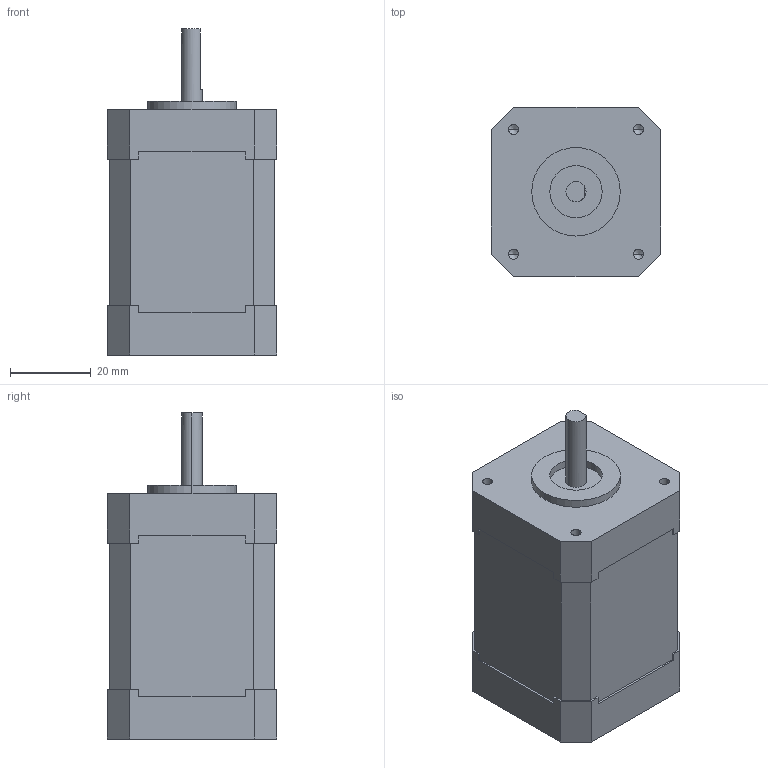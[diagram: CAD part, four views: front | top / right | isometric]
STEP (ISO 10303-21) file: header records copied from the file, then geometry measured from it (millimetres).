
FILE_DESCRIPTION (( 'STEP AP214' ), '1' );
FILE_NAME ('TS3617N504.STEP', '2016-09-08T08:30:00', ( 'hoho' ), ( '' ), 'SwSTEP 2.0', 'SolidWorks 2013', '' );
FILE_SCHEMA (( 'AUTOMOTIVE_DESIGN' ));
Length unit declared in the file: millimetre
Products named in the file (1): TS3617N504
Bounding box: 42 x 42 x 81 mm (x, y, z)
Volume: 101711.1 mm3; surface area: 13592.3 mm2
Topology: 1 solids, 1 shells, 85 faces, 232 edges, 148 vertices
Faces by surface type: plane 63, cylinder 14, cone 8
Entity records: 2806 total; most frequent: CARTESIAN_POINT 458, ORIENTED_EDGE 448, DIRECTION 426, EDGE_CURVE 224, LINE 194, VECTOR 194, VERTEX_POINT 148, AXIS2_PLACEMENT_3D 116
